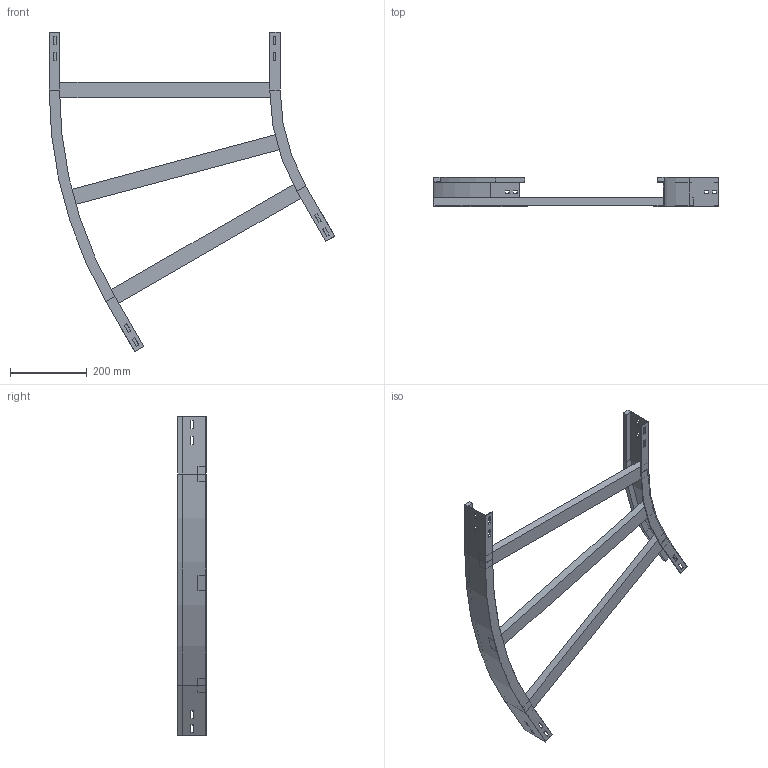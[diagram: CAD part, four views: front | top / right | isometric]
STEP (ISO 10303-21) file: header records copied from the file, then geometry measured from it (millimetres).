
FILE_DESCRIPTION (( 'STEP AP214' ), '1' );
FILE_NAME ('12B5C600.step', '2025-02-21T15:10:13', ( '' ), ( '' ), 'SwSTEP 2.0', 'SolidWorks 2023', '' );
FILE_SCHEMA (( 'AUTOMOTIVE_DESIGN' ));
Length unit declared in the file: millimetre
Products named in the file (4): A2_LONGH.INTERNO 30°_H75_R500; 12B5C600; A2_LONGH.ESTERNO 30°_H75_R500+600; TRAVERSINO_600
Assembly tree (5 placements, depth 2):
  12B5C600
    A2_LONGH.INTERNO 30°_H75_R500
    A2_LONGH.ESTERNO 30°_H75_R500+600
    TRAVERSINO_600  x3
Bounding box: 741.99 x 75 x 829.9 mm (x, y, z)
Volume: 2006953.2 mm3; surface area: 559014.9 mm2
Topology: 5 solids, 5 shells, 134 faces, 340 edges, 216 vertices
Faces by surface type: plane 126, cylinder 8
Entity records: 3821 total; most frequent: CARTESIAN_POINT 646, ORIENTED_EDGE 632, DIRECTION 592, EDGE_CURVE 316, LINE 300, VECTOR 300, VERTEX_POINT 200, EDGE_LOOP 154
